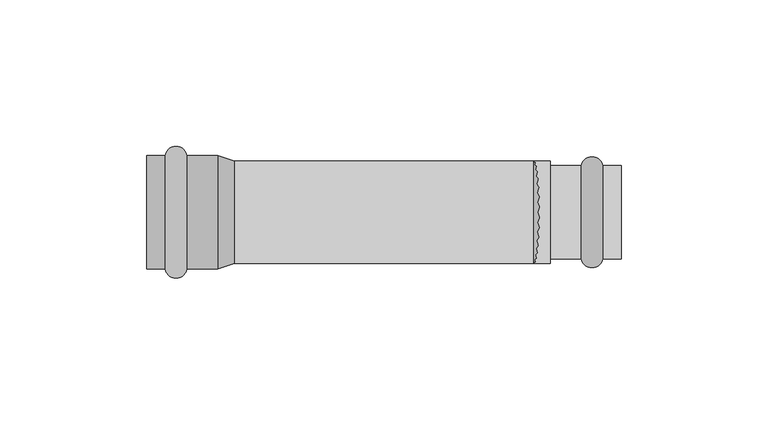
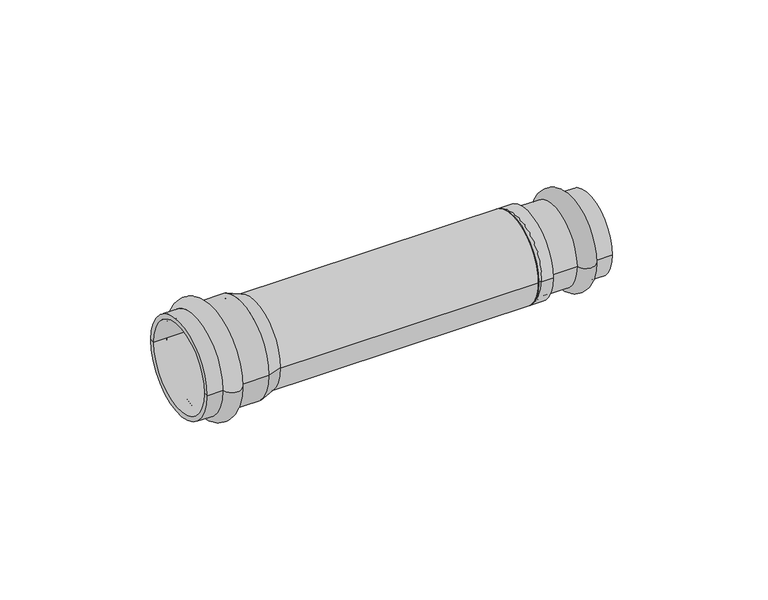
"""IFC4 building model written with IfcOpenShell, lengths in millimetres: pipe fitting geometry, VALTEC_VTi.903.I_Соединитель прямой нержавеющая сталь : VTi.903.I."""

from ifc_helpers import new_model, si_unit, point, frame, origin, origin_2d, place, context, project, spatial, polyline, circle_curve, ellipse_curve, trimmed, segment, composite_curve, outline, extrude, source, transform, mapped, element, save
from ifc_brep_helpers import plane_surface, cylinder_surface, revolved_surface, advanced_brep


def pipe_fitting_3d6a376f(model_context):
    return source(origin(), model_context, "Body", "SolidModel", [
        advanced_brep(
        [(155.6242346, 15.9, 0.0), (155.6242346, -15.9, 0.0), (148.2757654, -15.9, 0.0), (148.2757654, 15.9, 0.0), (162.0, 15.9, 0.0), (162.0, -15.9, 0.0), (162.0, 14.0, 0.0), (162.0, -14.0, 0.0), (137.7, 14.0, 0.0), (137.7, -14.0, 0.0), (137.7, 15.9, 0.0), (137.7, -15.9, 0.0)],
        [
            (0, 1, circle_curve(frame((155.6242346, 0.0, 0.0), z_axis=(-1.0, 0.0, 0.0), x_axis=(0.0, -1.0, 0.0)), 15.9)),
            (1, 2, circle_curve(frame((151.95, -15.15, 0.0), z_axis=(0.0, 0.0, -1.0), x_axis=(-1.0, 0.0, 0.0)), 3.75)),
            (2, 3, circle_curve(frame((148.2757654, 0.0, 0.0), z_axis=(1.0, 0.0, 0.0), x_axis=(0.0, -1.0, 0.0)), 15.9)),
            (3, 0, circle_curve(frame((151.95, 15.15, 0.0), z_axis=(0.0, 0.0, -1.0), x_axis=(-1.0, 0.0, 0.0)), 3.75)),
            (1, 0, circle_curve(frame((155.6242346, 0.0, 0.0), z_axis=(-1.0, 0.0, 0.0), x_axis=(0.0, -1.0, 0.0)), 15.9)),
            (3, 2, circle_curve(frame((148.2757654, 0.0, 0.0), z_axis=(1.0, 0.0, 0.0), x_axis=(0.0, -1.0, 0.0)), 15.9)),
            (4, 5, circle_curve(frame((162.0, 0.0, 0.0), z_axis=(-1.0, 0.0, 0.0), x_axis=(0.0, -1.0, 0.0)), 15.9)),
            (5, 1),
            (0, 4),
            (5, 4, circle_curve(frame((162.0, 0.0, 0.0), z_axis=(-1.0, 0.0, 0.0), x_axis=(0.0, -1.0, 0.0)), 15.9)),
            (6, 7, circle_curve(frame((162.0, 0.0, 0.0), z_axis=(-1.0, 0.0, 0.0), x_axis=(0.0, -1.0, 0.0)), 14.0)),
            (7, 5),
            (4, 6),
            (7, 6, circle_curve(frame((162.0, 0.0, 0.0), z_axis=(-1.0, 0.0, 0.0), x_axis=(0.0, -1.0, 0.0)), 14.0)),
            (8, 9, circle_curve(frame((137.7, 0.0, 0.0), z_axis=(-1.0, 0.0, 0.0), x_axis=(0.0, -1.0, 0.0)), 14.0)),
            (9, 7),
            (6, 8),
            (9, 8, circle_curve(frame((137.7, 0.0, 0.0), z_axis=(-1.0, 0.0, 0.0), x_axis=(0.0, -1.0, 0.0)), 14.0)),
            (10, 11, circle_curve(frame((137.7, 0.0, 0.0), z_axis=(-1.0, 0.0, 0.0), x_axis=(0.0, -1.0, 0.0)), 15.9)),
            (11, 9),
            (8, 10),
            (11, 10, circle_curve(frame((137.7, 0.0, 0.0), z_axis=(-1.0, 0.0, 0.0), x_axis=(0.0, -1.0, 0.0)), 15.9)),
            (2, 11),
            (10, 3),
        ],
        [
            revolved_surface(trimmed(ellipse_curve(frame((151.95, -15.15, 0.0), z_axis=(0.0, 0.0, 1.0), x_axis=(-1.0, 0.0, 0.0)), 3.75, 3.75), [point((148.2757654, -15.9, 0.0))], [point((155.6242346, -15.9, 0.0))], True, "CARTESIAN"), (165.5364426, 0.0, 0.0), (1.0, 0.0, 0.0)),
            cylinder_surface(frame((165.5364426, 0.0, 0.0), z_axis=(1.0, 0.0, 0.0), x_axis=(0.0, -1.0, 0.0)), 15.9),
            plane_surface(frame((162.0, 0.0, 0.0), z_axis=(1.0, 0.0, 0.0), x_axis=(0.0, -1.0, 0.0))),
            revolved_surface(polyline([(162.0, -14.0, 0.0), (137.7, -14.0, 0.0)]), (165.5364426, 0.0, 0.0), (1.0, 0.0, 0.0)),
            plane_surface(frame((137.7, 0.0, 0.0), z_axis=(-1.0, 0.0, 0.0), x_axis=(0.0, -1.0, 0.0))),
        ],
        [
            (0, [[1, 2, 3, 4]]),
            (0, [[5, -4, 6, -2]]),
            (1, [[7, 8, -1, 9]]),
            (1, [[10, -9, -5, -8]]),
            (2, [[11, 12, -7, 13]]),
            (2, [[14, -13, -10, -12]]),
            (3, [[15, 16, -11, 17]]),
            (3, [[18, -17, -14, -16]]),
            (4, [[19, 20, -15, 21]]),
            (4, [[22, -21, -18, -20]]),
            (1, [[-3, 23, -19, 24]]),
            (1, [[-6, -24, -22, -23]]),
        ],
    ),
        advanced_brep(
        [(6.3567629, -19.4, 0.0), (6.3567629, 19.4, 0.0), (13.7432371, 19.4, 0.0), (13.7432371, -19.4, 0.0), (0.0, -19.4, 0.0), (0.0, 19.4, 0.0), (0.0, -17.5, 0.0), (0.0, 17.5, 0.0), (24.3, -17.5, 0.0), (24.3, 17.5, 0.0), (24.3, -19.4, 0.0), (24.3, 19.4, 0.0)],
        [
            (0, 1, circle_curve(frame((6.3567629, 0.0, 0.0), z_axis=(1.0, 0.0, 0.0), x_axis=(0.0, 1.0, 0.0)), 19.4)),
            (1, 2, circle_curve(frame((10.05, 18.75, 0.0), z_axis=(0.0, 0.0, -1.0), x_axis=(1.0, 0.0, 0.0)), 3.75)),
            (2, 3, circle_curve(frame((13.7432371, 0.0, 0.0), z_axis=(-1.0, 0.0, 0.0), x_axis=(0.0, 1.0, 0.0)), 19.4)),
            (3, 0, circle_curve(frame((10.05, -18.75, 0.0), z_axis=(0.0, 0.0, -1.0), x_axis=(1.0, 0.0, 0.0)), 3.75)),
            (1, 0, circle_curve(frame((6.3567629, 0.0, 0.0), z_axis=(1.0, 0.0, 0.0), x_axis=(0.0, 1.0, 0.0)), 19.4)),
            (3, 2, circle_curve(frame((13.7432371, 0.0, 0.0), z_axis=(-1.0, 0.0, 0.0), x_axis=(0.0, 1.0, 0.0)), 19.4)),
            (4, 5, circle_curve(frame((0.0, 0.0, 0.0), z_axis=(1.0, 0.0, 0.0), x_axis=(0.0, 1.0, 0.0)), 19.4)),
            (5, 1),
            (0, 4),
            (5, 4, circle_curve(frame((0.0, 0.0, 0.0), z_axis=(1.0, 0.0, 0.0), x_axis=(0.0, 1.0, 0.0)), 19.4)),
            (6, 7, circle_curve(frame((0.0, 0.0, 0.0), z_axis=(1.0, 0.0, 0.0), x_axis=(0.0, 1.0, 0.0)), 17.5)),
            (7, 5),
            (4, 6),
            (7, 6, circle_curve(frame((0.0, 0.0, 0.0), z_axis=(1.0, 0.0, 0.0), x_axis=(0.0, 1.0, 0.0)), 17.5)),
            (8, 9, circle_curve(frame((24.3, 0.0, 0.0), z_axis=(1.0, 0.0, 0.0), x_axis=(0.0, 1.0, 0.0)), 17.5)),
            (9, 7),
            (6, 8),
            (9, 8, circle_curve(frame((24.3, 0.0, 0.0), z_axis=(1.0, 0.0, 0.0), x_axis=(0.0, 1.0, 0.0)), 17.5)),
            (10, 11, circle_curve(frame((24.3, 0.0, 0.0), z_axis=(1.0, 0.0, 0.0), x_axis=(0.0, 1.0, 0.0)), 19.4)),
            (11, 9),
            (8, 10),
            (11, 10, circle_curve(frame((24.3, 0.0, 0.0), z_axis=(1.0, 0.0, 0.0), x_axis=(0.0, 1.0, 0.0)), 19.4)),
            (2, 11),
            (10, 3),
        ],
        [
            revolved_surface(trimmed(ellipse_curve(frame((10.05, 18.75, 0.0), z_axis=(0.0, 0.0, 1.0), x_axis=(1.0, 0.0, 0.0)), 3.75, 3.75), [point((13.7432371, 19.4, 0.0))], [point((6.3567629, 19.4, 0.0))], True, "CARTESIAN"), (-3.5364426, 0.0, 0.0), (-1.0, 0.0, 0.0)),
            cylinder_surface(frame((-3.5364426, 0.0, 0.0), z_axis=(-1.0, 0.0, 0.0), x_axis=(0.0, 1.0, 0.0)), 19.4),
            plane_surface(frame((0.0, 0.0, 0.0), z_axis=(-1.0, 0.0, 0.0), x_axis=(0.0, 1.0, 0.0))),
            revolved_surface(polyline([(0.0, 17.5, 0.0), (24.3, 17.5, 0.0)]), (-3.5364426, 0.0, 0.0), (-1.0, 0.0, 0.0)),
            plane_surface(frame((24.3, 0.0, 0.0), z_axis=(1.0, 0.0, 0.0), x_axis=(0.0, 1.0, 0.0))),
        ],
        [
            (0, [[1, 2, 3, 4]]),
            (0, [[5, -4, 6, -2]]),
            (1, [[7, 8, -1, 9]]),
            (1, [[10, -9, -5, -8]]),
            (2, [[11, 12, -7, 13]]),
            (2, [[14, -13, -10, -12]]),
            (3, [[15, 16, -11, 17]]),
            (3, [[18, -17, -14, -16]]),
            (4, [[19, 20, -15, 21]]),
            (4, [[22, -21, -18, -20]]),
            (1, [[-3, 23, -19, 24]]),
            (1, [[-6, -24, -22, -23]]),
        ],
    ),
        advanced_brep(
        [(24.3, -19.4, 0.0), (24.3, 19.4, 0.0), (29.97, -17.5, 0.0), (29.97, 17.5, 0.0)],
        [
            (0, 1, circle_curve(frame((24.3, 0.0, 0.0), z_axis=(-1.0, 0.0, 0.0), x_axis=(0.0, -1.0, 0.0)), 19.4)),
            (1, 0, circle_curve(frame((24.3, 0.0, 0.0), z_axis=(-1.0, 0.0, 0.0), x_axis=(0.0, 1.0, 0.0)), 19.4)),
            (2, 3, circle_curve(frame((29.97, 0.0, 0.0), z_axis=(1.0, 0.0, 0.0), x_axis=(0.0, 1.0, 0.0)), 17.5)),
            (3, 2, circle_curve(frame((29.97, 0.0, 0.0), z_axis=(1.0, 0.0, 0.0), x_axis=(0.0, -1.0, 0.0)), 17.5)),
            (2, 0),
            (1, 3),
        ],
        [
            plane_surface(frame((24.3, 0.0, 0.0), z_axis=(-1.0, 0.0, 0.0), x_axis=(0.0, 0.0, 1.0))),
            plane_surface(frame((29.97, 0.0, 0.0), z_axis=(1.0, 0.0, 0.0), x_axis=(0.0, 0.0, 1.0))),
            revolved_surface(polyline([(29.97, -17.499999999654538, 0.0), (24.299999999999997, -19.4, 0.0)]), (82.1936842, 0.0, 0.0), (-1.0, 0.0, 0.0)),
            revolved_surface(polyline([(29.97, 17.499999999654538, 0.0), (24.299999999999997, 19.4, 0.0)]), (82.1936842, 0.0, 0.0), (-1.0, 0.0, 0.0)),
        ],
        [
            (0, [[1, 2]]),
            (1, [[3, 4]]),
            (2, [[-3, 5, -2, 6]]),
            (3, [[-4, -6, -1, -5]]),
        ],
    ),
        advanced_brep(
        [(137.7, -15.9, 0.0), (137.7, 15.9, 0.0), (132.03, -17.5, 0.0), (132.03, 17.5, 0.0)],
        [
            (0, 1, circle_curve(frame((137.7, 0.0, 0.0), z_axis=(1.0, 0.0, 0.0), x_axis=(0.0, -1.0, 0.0)), 15.9)),
            (1, 0, circle_curve(frame((137.7, 0.0, 0.0), z_axis=(1.0, 0.0, 0.0), x_axis=(0.0, 1.0, 0.0)), 15.9)),
            (2, 3, circle_curve(frame((132.03, 0.0, 0.0), z_axis=(-1.0, 0.0, 0.0), x_axis=(0.0, 1.0, 0.0)), 17.5)),
            (3, 2, circle_curve(frame((132.03, 0.0, 0.0), z_axis=(-1.0, 0.0, 0.0), x_axis=(0.0, -1.0, 0.0)), 17.5)),
            (3, 1),
            (0, 2),
        ],
        [
            plane_surface(frame((137.7, 0.0, 0.0), z_axis=(1.0, 0.0, 0.0), x_axis=(0.0, 0.0, -1.0))),
            plane_surface(frame((132.03, 0.0, 0.0), z_axis=(-1.0, 0.0, 0.0), x_axis=(0.0, 0.0, -1.0))),
            revolved_surface(polyline([(137.7, -15.900000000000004, 0.0), (132.03, -17.5, 0.0)]), (194.045625, 0.0, 0.0), (-1.0, 0.0, 0.0)),
            revolved_surface(polyline([(137.7, 15.900000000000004, 0.0), (132.03, 17.5, 0.0)]), (194.045625, 0.0, 0.0), (-1.0, 0.0, 0.0)),
        ],
        [
            (0, [[1, 2]]),
            (1, [[3, 4]]),
            (2, [[-4, 5, -1, 6]]),
            (3, [[-3, -6, -2, -5]]),
        ],
    ),
        extrude(outline(composite_curve([segment(trimmed(circle_curve(origin_2d(), 17.5), [point((-17.5, 0.0))], [point((17.5, 0.0))], False, "CARTESIAN"), True, "CONTINUOUS"), segment(trimmed(circle_curve(origin_2d(), 17.5), [point((17.5, 0.0))], [point((-17.5, 0.0))], False, "CARTESIAN"), True, "CONTINUOUS")], self_intersect=False)), frame((24.3, 0.0, 0.0), z_axis=(1.0, 0.0, 0.0), x_axis=(0.0, 1.0, 0.0)), (0.0, 0.0, 1.0), 113.4),
    ])


if __name__ == "__main__":
    model = new_model("IFC4")
    model_context = context("Model", 3, world=origin())
    ifc_project = project(units=[si_unit("LENGTHUNIT", "METRE", prefix="MILLI")], contexts=[model_context])
    site = spatial("IfcSite", under=ifc_project)
    building = spatial("IfcBuilding", under=site)
    placement = place(None, origin())
    pipe_fitting_shape = pipe_fitting_3d6a376f(model_context)
    element("IfcPipeFitting", 1, ObjectType="VALTEC_VTi.903.I_Соединитель прямой нержавеющая сталь : VTi.903.I", at=placement, inside=building, context=model_context, shape_type="MappedRepresentation", body=[
        mapped(pipe_fitting_shape, transform((0.0, 0.0, 0.0), x_axis=(1.0, 0.0, 0.0), y_axis=(0.0, 1.0, 0.0), z_axis=(0.0, 0.0, 1.0))),
    ])
    save(model, "model.ifc")
